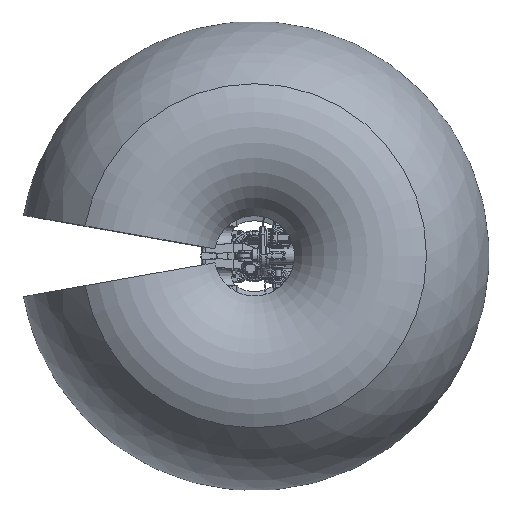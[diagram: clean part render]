
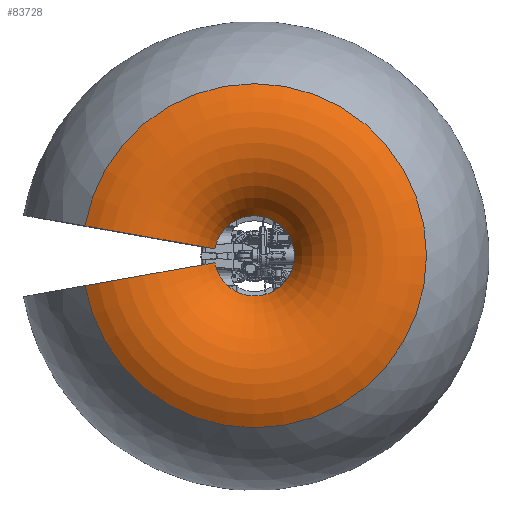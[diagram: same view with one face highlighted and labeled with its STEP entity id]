
A CAD part, top view. The second image highlights one B-rep face of the part: STEP entity #83728.
In plain terms, the highlighted toroidal (fillet/blend) face has major radius 2148.63 mm and minor radius 1597.52 mm.
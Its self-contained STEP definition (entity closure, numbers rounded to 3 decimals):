
#507=TOROIDAL_SURFACE('',#92072,2148.627,1597.524);
#25331=FACE_OUTER_BOUND('',#31608,.T.);
#31608=EDGE_LOOP('',(#77601,#77602,#77603,#77604));
#34576=CIRCLE('',#92068,3048.241);
#34580=CIRCLE('',#92073,710.271);
#34581=CIRCLE('',#92074,1597.524);
#34582=CIRCLE('',#92075,1597.524);
#42554=VERTEX_POINT('',#260962);
#42555=VERTEX_POINT('',#260963);
#42558=VERTEX_POINT('',#260971);
#42559=VERTEX_POINT('',#260972);
#54237=EDGE_CURVE('',#42554,#42555,#34576,.T.);
#54241=EDGE_CURVE('',#42558,#42559,#34580,.T.);
#54242=EDGE_CURVE('',#42555,#42559,#34581,.T.);
#54243=EDGE_CURVE('',#42554,#42558,#34582,.T.);
#77601=ORIENTED_EDGE('',*,*,#54241,.T.);
#77602=ORIENTED_EDGE('',*,*,#54242,.F.);
#77603=ORIENTED_EDGE('',*,*,#54237,.F.);
#77604=ORIENTED_EDGE('',*,*,#54243,.T.);
#83728=ADVANCED_FACE('',(#25331),#507,.T.);
#92068=AXIS2_PLACEMENT_3D('',#260964,#114855,#114856);
#92072=AXIS2_PLACEMENT_3D('',#260970,#114863,#114864);
#92073=AXIS2_PLACEMENT_3D('',#260973,#114865,#114866);
#92074=AXIS2_PLACEMENT_3D('',#260974,#114867,#114868);
#92075=AXIS2_PLACEMENT_3D('',#260975,#114869,#114870);
#114855=DIRECTION('center_axis',(0.,0.,
-1.));
#114856=DIRECTION('ref_axis',(0.,-1.,0.));
#114863=DIRECTION('center_axis',(0.,0.,
1.));
#114864=DIRECTION('ref_axis',(1.,0.,0.));
#114865=DIRECTION('center_axis',(0.,0.,
-1.));
#114866=DIRECTION('ref_axis',(0.,-1.,0.));
#114867=DIRECTION('center_axis',(-0.174,0.985,0.));
#114868=DIRECTION('ref_axis',(0.887,0.156,0.435));
#114869=DIRECTION('center_axis',(0.174,0.985,0.));
#114870=DIRECTION('ref_axis',(0.887,-0.156,0.435));
#260962=CARTESIAN_POINT('',(-3001.932,529.322,3656.788));
#260963=CARTESIAN_POINT('',(-3001.932,-529.322,3656.788));
#260964=CARTESIAN_POINT('Origin',(0.,0.,
3656.788));
#260970=CARTESIAN_POINT('Origin',(0.,0.,
2336.645));
#260971=CARTESIAN_POINT('',(-699.481,123.337,3031.783));
#260972=CARTESIAN_POINT('',(-699.481,-123.337,3031.783));
#260973=CARTESIAN_POINT('Origin',(0.,0.,
3031.783));
#260974=CARTESIAN_POINT('Origin',(-2115.984,-373.105,2336.645));
#260975=CARTESIAN_POINT('Origin',(-2115.984,373.105,2336.645));
